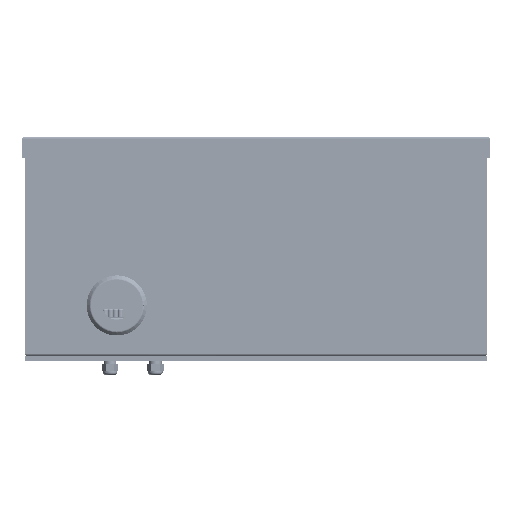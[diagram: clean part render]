
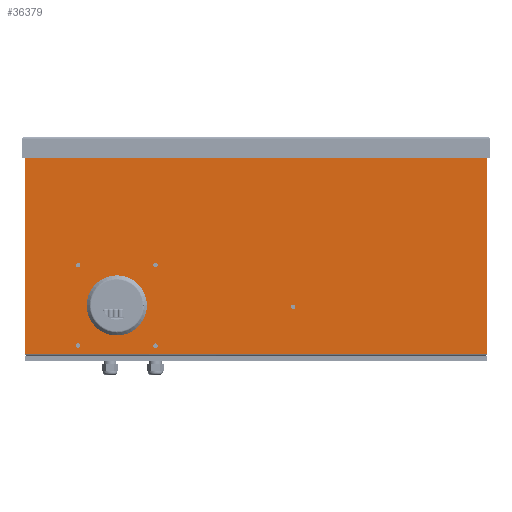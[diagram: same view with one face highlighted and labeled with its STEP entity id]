
A CAD part, front view. The second image highlights one B-rep face of the part: STEP entity #36379.
In plain terms, the highlighted planar face has unit normal (0, -1, 0).
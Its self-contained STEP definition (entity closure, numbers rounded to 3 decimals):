
#8210=CARTESIAN_POINT('',(-230.,-457.2,2.));
#8212=DIRECTION('',(1.,0.,0.));
#8213=VECTOR('',#8212,460.);
#8214=CARTESIAN_POINT('',(-230.,-457.2,2.));
#8215=LINE('',#8214,#8213);
#8341=DIRECTION('',(0.,0.,1.));
#8342=VECTOR('',#8341,212.5);
#8343=CARTESIAN_POINT('',(230.,-457.2,2.));
#8344=LINE('',#8343,#8342);
#8345=CARTESIAN_POINT('',(-138.3,-457.2,50.));
#8346=DIRECTION('',(0.,-1.,0.));
#8347=DIRECTION('',(-1.,0.,0.));
#8348=AXIS2_PLACEMENT_3D('',#8345,#8346,#8347);
#8350=CARTESIAN_POINT('',(-138.3,-457.2,50.));
#8351=DIRECTION('',(0.,-1.,0.));
#8352=DIRECTION('',(1.,0.,0.));
#8353=AXIS2_PLACEMENT_3D('',#8350,#8351,#8352);
#8355=CARTESIAN_POINT('',(-176.8,-457.2,90.));
#8356=DIRECTION('',(0.,-1.,0.));
#8357=DIRECTION('',(1.,0.,0.));
#8358=AXIS2_PLACEMENT_3D('',#8355,#8356,#8357);
#8360=CARTESIAN_POINT('',(-176.8,-457.2,90.));
#8361=DIRECTION('',(0.,-1.,0.));
#8362=DIRECTION('',(-1.,0.,0.));
#8363=AXIS2_PLACEMENT_3D('',#8360,#8361,#8362);
#8365=CARTESIAN_POINT('',(-99.8,-457.2,90.));
#8366=DIRECTION('',(0.,-1.,0.));
#8367=DIRECTION('',(1.,0.,0.));
#8368=AXIS2_PLACEMENT_3D('',#8365,#8366,#8367);
#8370=CARTESIAN_POINT('',(-99.8,-457.2,90.));
#8371=DIRECTION('',(0.,-1.,0.));
#8372=DIRECTION('',(-1.,0.,0.));
#8373=AXIS2_PLACEMENT_3D('',#8370,#8371,#8372);
#8375=CARTESIAN_POINT('',(-176.8,-457.2,10.));
#8376=DIRECTION('',(0.,-1.,0.));
#8377=DIRECTION('',(1.,0.,0.));
#8378=AXIS2_PLACEMENT_3D('',#8375,#8376,#8377);
#8380=CARTESIAN_POINT('',(-176.8,-457.2,10.));
#8381=DIRECTION('',(0.,-1.,0.));
#8382=DIRECTION('',(-1.,0.,0.));
#8383=AXIS2_PLACEMENT_3D('',#8380,#8381,#8382);
#8385=CARTESIAN_POINT('',(-99.8,-457.2,10.));
#8386=DIRECTION('',(0.,-1.,0.));
#8387=DIRECTION('',(1.,0.,0.));
#8388=AXIS2_PLACEMENT_3D('',#8385,#8386,#8387);
#8390=CARTESIAN_POINT('',(-99.8,-457.2,10.));
#8391=DIRECTION('',(0.,-1.,0.));
#8392=DIRECTION('',(-1.,0.,0.));
#8393=AXIS2_PLACEMENT_3D('',#8390,#8391,#8392);
#8395=CARTESIAN_POINT('',(37.,-457.2,199.));
#8396=DIRECTION('',(0.,-1.,0.));
#8397=DIRECTION('',(1.,0.,0.));
#8398=AXIS2_PLACEMENT_3D('',#8395,#8396,#8397);
#8400=CARTESIAN_POINT('',(37.,-457.2,199.));
#8401=DIRECTION('',(0.,-1.,0.));
#8402=DIRECTION('',(-1.,0.,0.));
#8403=AXIS2_PLACEMENT_3D('',#8400,#8401,#8402);
#8405=CARTESIAN_POINT('',(37.,-457.2,48.5));
#8406=DIRECTION('',(0.,-1.,0.));
#8407=DIRECTION('',(1.,0.,0.));
#8408=AXIS2_PLACEMENT_3D('',#8405,#8406,#8407);
#8410=CARTESIAN_POINT('',(37.,-457.2,48.5));
#8411=DIRECTION('',(0.,-1.,0.));
#8412=DIRECTION('',(-1.,0.,0.));
#8413=AXIS2_PLACEMENT_3D('',#8410,#8411,#8412);
#8415=DIRECTION('',(0.,0.,-1.));
#8416=VECTOR('',#8415,212.5);
#8417=CARTESIAN_POINT('',(-230.,-457.2,214.5));
#8418=LINE('',#8417,#8416);
#8583=DIRECTION('',(-1.,0.,0.));
#8584=VECTOR('',#8583,460.);
#8585=CARTESIAN_POINT('',(230.,-457.2,214.5));
#8586=LINE('',#8585,#8584);
#27677=VERTEX_POINT('',#8210);
#27678=CARTESIAN_POINT('',(230.,-457.2,2.));
#27679=VERTEX_POINT('',#27678);
#27706=CARTESIAN_POINT('',(230.,-457.2,214.5));
#27707=VERTEX_POINT('',#27706);
#27710=CARTESIAN_POINT('',(-230.,-457.2,214.5));
#27711=VERTEX_POINT('',#27710);
#27712=CARTESIAN_POINT('',(-168.214,-457.2,50.));
#27713=CARTESIAN_POINT('',(-108.386,-457.2,50.));
#27714=VERTEX_POINT('',#27712);
#27715=VERTEX_POINT('',#27713);
#27716=CARTESIAN_POINT('',(-174.55,-457.2,90.));
#27717=CARTESIAN_POINT('',(-179.05,-457.2,90.));
#27718=VERTEX_POINT('',#27716);
#27719=VERTEX_POINT('',#27717);
#27720=CARTESIAN_POINT('',(-97.55,-457.2,90.));
#27721=CARTESIAN_POINT('',(-102.05,-457.2,90.));
#27722=VERTEX_POINT('',#27720);
#27723=VERTEX_POINT('',#27721);
#27724=CARTESIAN_POINT('',(-174.55,-457.2,10.));
#27725=CARTESIAN_POINT('',(-179.05,-457.2,10.));
#27726=VERTEX_POINT('',#27724);
#27727=VERTEX_POINT('',#27725);
#27728=CARTESIAN_POINT('',(-97.55,-457.2,10.));
#27729=CARTESIAN_POINT('',(-102.05,-457.2,10.));
#27730=VERTEX_POINT('',#27728);
#27731=VERTEX_POINT('',#27729);
#27732=CARTESIAN_POINT('',(39.25,-457.2,199.));
#27733=CARTESIAN_POINT('',(34.75,-457.2,199.));
#27734=VERTEX_POINT('',#27732);
#27735=VERTEX_POINT('',#27733);
#27736=CARTESIAN_POINT('',(39.25,-457.2,48.5));
#27737=CARTESIAN_POINT('',(34.75,-457.2,48.5));
#27738=VERTEX_POINT('',#27736);
#27739=VERTEX_POINT('',#27737);
#36324=CARTESIAN_POINT('',(-230.,-457.2,0.));
#36325=DIRECTION('',(0.,-1.,0.));
#36326=DIRECTION('',(1.,0.,0.));
#36327=AXIS2_PLACEMENT_3D('',#36324,#36325,#36326);
#36328=PLANE('',#36327);
#36329=ORIENTED_EDGE('',*,*,#35901,.F.);
#36331=ORIENTED_EDGE('',*,*,#36330,.F.);
#36333=ORIENTED_EDGE('',*,*,#36332,.F.);
#36334=ORIENTED_EDGE('',*,*,#36314,.F.);
#36335=EDGE_LOOP('',(#36329,#36331,#36333,#36334));
#36336=FACE_OUTER_BOUND('',#36335,.F.);
#36338=ORIENTED_EDGE('',*,*,#36337,.T.);
#36340=ORIENTED_EDGE('',*,*,#36339,.T.);
#36341=EDGE_LOOP('',(#36338,#36340));
#36342=FACE_BOUND('',#36341,.F.);
#36344=ORIENTED_EDGE('',*,*,#36343,.T.);
#36346=ORIENTED_EDGE('',*,*,#36345,.T.);
#36347=EDGE_LOOP('',(#36344,#36346));
#36348=FACE_BOUND('',#36347,.F.);
#36350=ORIENTED_EDGE('',*,*,#36349,.T.);
#36352=ORIENTED_EDGE('',*,*,#36351,.T.);
#36353=EDGE_LOOP('',(#36350,#36352));
#36354=FACE_BOUND('',#36353,.F.);
#36356=ORIENTED_EDGE('',*,*,#36355,.T.);
#36358=ORIENTED_EDGE('',*,*,#36357,.T.);
#36359=EDGE_LOOP('',(#36356,#36358));
#36360=FACE_BOUND('',#36359,.F.);
#36362=ORIENTED_EDGE('',*,*,#36361,.T.);
#36364=ORIENTED_EDGE('',*,*,#36363,.T.);
#36365=EDGE_LOOP('',(#36362,#36364));
#36366=FACE_BOUND('',#36365,.F.);
#36368=ORIENTED_EDGE('',*,*,#36367,.T.);
#36370=ORIENTED_EDGE('',*,*,#36369,.T.);
#36371=EDGE_LOOP('',(#36368,#36370));
#36372=FACE_BOUND('',#36371,.F.);
#36374=ORIENTED_EDGE('',*,*,#36373,.T.);
#36376=ORIENTED_EDGE('',*,*,#36375,.T.);
#36377=EDGE_LOOP('',(#36374,#36376));
#36378=FACE_BOUND('',#36377,.F.);
#36379=ADVANCED_FACE('',(#36336,#36342,#36348,#36354,#36360,#36366,#36372,
#36378),#36328,.T.);
#8349=CIRCLE('',#8348,29.914);
#8354=CIRCLE('',#8353,29.914);
#8359=CIRCLE('',#8358,2.25);
#8364=CIRCLE('',#8363,2.25);
#8369=CIRCLE('',#8368,2.25);
#8374=CIRCLE('',#8373,2.25);
#8379=CIRCLE('',#8378,2.25);
#8384=CIRCLE('',#8383,2.25);
#8389=CIRCLE('',#8388,2.25);
#8394=CIRCLE('',#8393,2.25);
#8399=CIRCLE('',#8398,2.25);
#8404=CIRCLE('',#8403,2.25);
#8409=CIRCLE('',#8408,2.25);
#8414=CIRCLE('',#8413,2.25);
#35901=EDGE_CURVE('',#27677,#27679,#8215,.T.);
#36314=EDGE_CURVE('',#27679,#27707,#8344,.T.);
#36330=EDGE_CURVE('',#27711,#27677,#8418,.T.);
#36332=EDGE_CURVE('',#27707,#27711,#8586,.T.);
#36337=EDGE_CURVE('',#27714,#27715,#8349,.T.);
#36339=EDGE_CURVE('',#27715,#27714,#8354,.T.);
#36343=EDGE_CURVE('',#27718,#27719,#8359,.T.);
#36345=EDGE_CURVE('',#27719,#27718,#8364,.T.);
#36349=EDGE_CURVE('',#27722,#27723,#8369,.T.);
#36351=EDGE_CURVE('',#27723,#27722,#8374,.T.);
#36355=EDGE_CURVE('',#27726,#27727,#8379,.T.);
#36357=EDGE_CURVE('',#27727,#27726,#8384,.T.);
#36361=EDGE_CURVE('',#27730,#27731,#8389,.T.);
#36363=EDGE_CURVE('',#27731,#27730,#8394,.T.);
#36367=EDGE_CURVE('',#27734,#27735,#8399,.T.);
#36369=EDGE_CURVE('',#27735,#27734,#8404,.T.);
#36373=EDGE_CURVE('',#27738,#27739,#8409,.T.);
#36375=EDGE_CURVE('',#27739,#27738,#8414,.T.);
